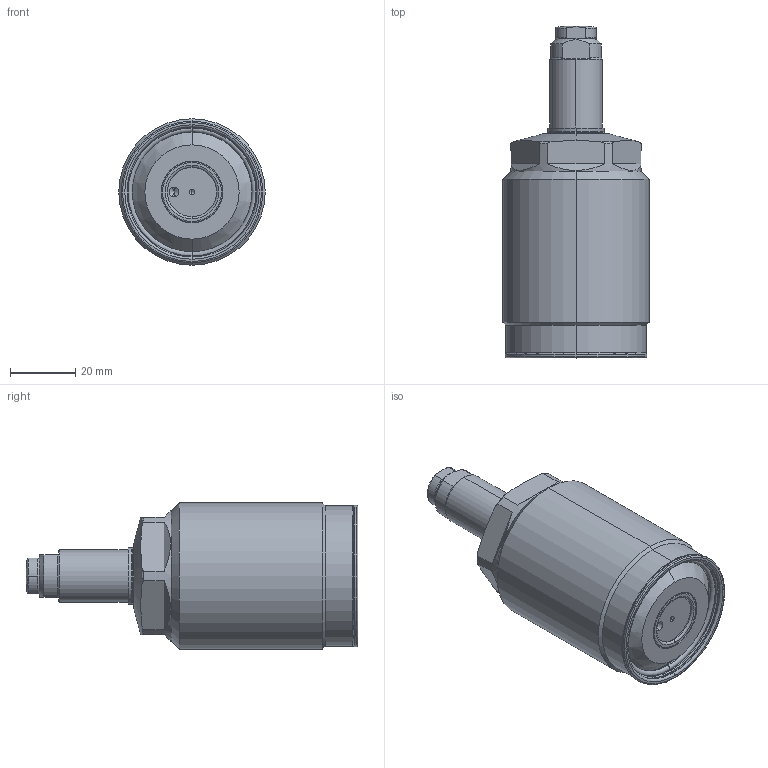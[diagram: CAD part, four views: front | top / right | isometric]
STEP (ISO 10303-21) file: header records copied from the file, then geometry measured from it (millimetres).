
FILE_DESCRIPTION(/* description */ (''),/* implementation_level */ '2;1');
FILE_NAME(/* name */ 'TSS45-Q.stp',/* time_stamp */ '2026-02-04T13:00:42+08:00',/* author */ (''),/* organization */ (''),/* preprocessor_version */ 'ST-DEVELOPER v16.7',/* originating_system */ 'SIEMENS PLM Software NX 12.0',/* authorisation */ '');
FILE_SCHEMA (('AUTOMOTIVE_DESIGN { 1 0 10303 214 3 1 1 1 }'));
Length unit declared in the file: millimetre
Products named in the file (7): XLC-M10_Oring; XLC-M10_contactbolt; AS568-030(90); TSS45-Q-02; TSS45-Q-01; TSS45-Q-03; LD0453-EQ_step
Assembly tree (6 placements, depth 3):
  LD0453-EQ_step
    TSS45-Q-03
      XLC-M10_contactbolt
      XLC-M10_Oring
    TSS45-Q-01
    TSS45-Q-02
    AS568-030(90)
Bounding box: 45 x 102 x 45 mm (x, y, z)
Volume: 101803.8 mm3; surface area: 17922.8 mm2
Topology: 5 solids, 5 shells, 371 faces, 778 edges, 424 vertices
Faces by surface type: cone 234, torus 58, cylinder 41, plane 36, sphere 2
Entity records: 10187 total; most frequent: CARTESIAN_POINT 1978, DIRECTION 1915, ORIENTED_EDGE 1548, AXIS2_PLACEMENT_3D 807, EDGE_CURVE 774, CIRCLE 429, VERTEX_POINT 424, EDGE_LOOP 386
